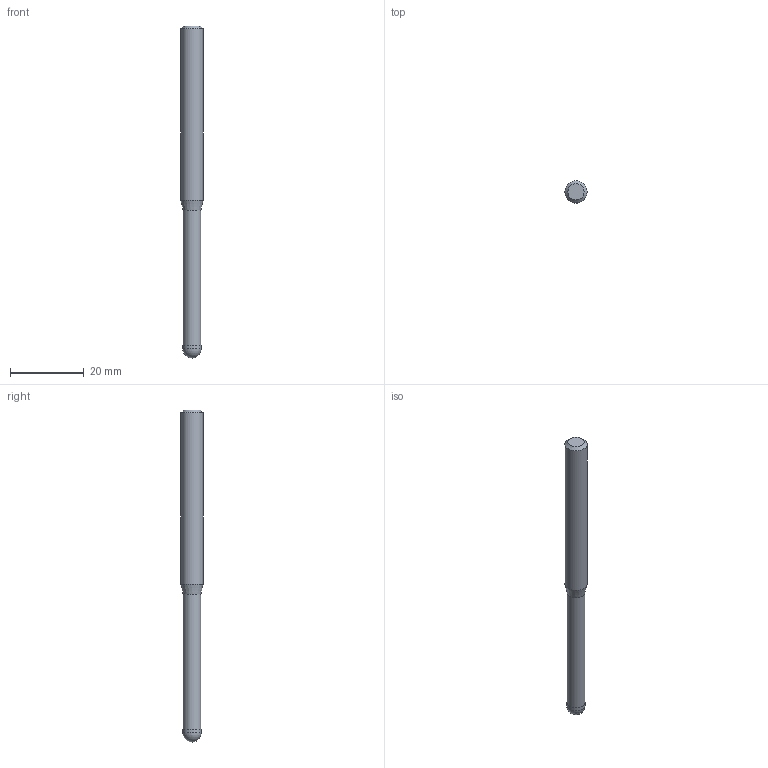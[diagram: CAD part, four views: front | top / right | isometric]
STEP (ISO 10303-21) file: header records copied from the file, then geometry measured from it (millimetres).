
FILE_DESCRIPTION((''),'2;1');
FILE_NAME('C:\Users\nsx150\AppData\Local\Temp\Mastercam 2021\3SYKECWX22\TEMP.step','2021-04-22T10:05:48',(''),(''),'STEP Write','Mastercam 2021 ... CNC Software, Inc.','');
FILE_SCHEMA(('AUTOMOTIVE_DESIGN'));
Length unit declared in the file: millimetre
Products named in the file (1): None
Bounding box: 6 x 6 x 90 mm (x, y, z)
Volume: 2106.2 mm3; surface area: 1600 mm2
Topology: 2 solids, 2 shells, 9 faces, 14 edges, 8 vertices
Faces by surface type: plane 3, cylinder 3, cone 2, sphere 1
Full cylindrical faces by diameter (mm): 4.8 x1, 5 x1, 6 x1
Entity records: 211 total; most frequent: DIRECTION 36, CARTESIAN_POINT 25, AXIS2_PLACEMENT_3D 18, ORIENTED_EDGE 14, EDGE_LOOP 14, STYLED_ITEM 12, ADVANCED_FACE 9, FACE_BOUND 8
